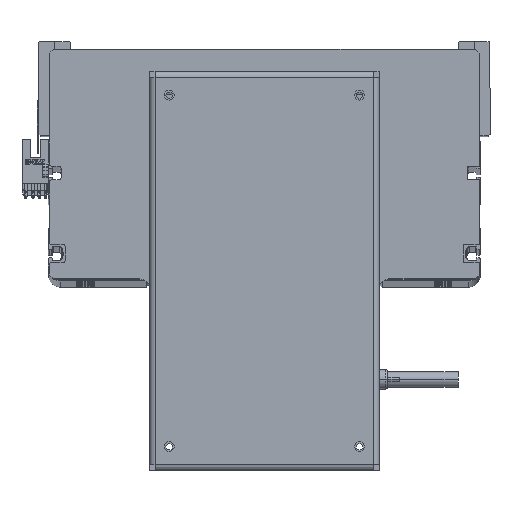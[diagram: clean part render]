
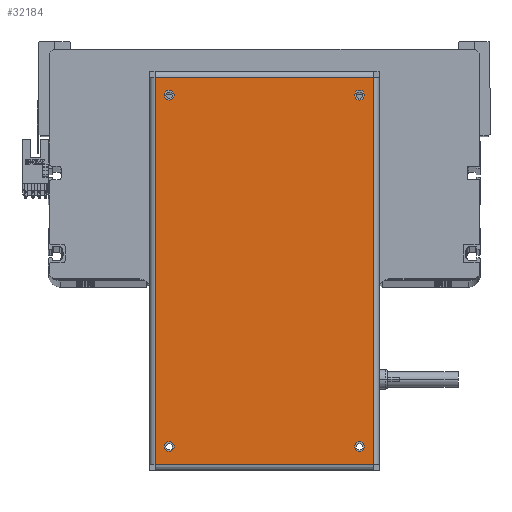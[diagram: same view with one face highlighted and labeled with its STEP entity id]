
A CAD part, top view. The second image highlights one B-rep face of the part: STEP entity #32184.
In plain terms, the highlighted planar face has unit normal (0, 0, 1).
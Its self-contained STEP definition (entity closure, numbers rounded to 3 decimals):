
#126 = DIRECTION ( 'NONE',  ( 1., 0., 0. ) ) ;
#400 = CARTESIAN_POINT ( 'NONE',  ( -98.75, -55.6, 0. ) ) ;
#519 = EDGE_CURVE ( 'NONE', #16144, #17165, #17118, .T. ) ;
#1760 = EDGE_CURVE ( 'NONE', #22771, #6299, #19597, .T. ) ;
#1814 = EDGE_CURVE ( 'NONE', #17165, #16144, #38968, .T. ) ;
#2192 = CARTESIAN_POINT ( 'NONE',  ( 87.05, 48.5, 0. ) ) ;
#2447 = DIRECTION ( 'NONE',  ( 0., 0., 1. ) ) ;
#3265 = EDGE_LOOP ( 'NONE', ( #3357, #6243, #14989, #32608 ) ) ;
#3357 = ORIENTED_EDGE ( 'NONE', *, *, #1760, .T. ) ;
#3504 = CARTESIAN_POINT ( 'NONE',  ( 92.05, -48.5, 0. ) ) ;
#3621 = VERTEX_POINT ( 'NONE', #2192 ) ;
#4157 = CARTESIAN_POINT ( 'NONE',  ( 98.65, 55.6, 0. ) ) ;
#4457 = CIRCLE ( 'NONE', #15868, 2.5 ) ;
#4502 = DIRECTION ( 'NONE',  ( 1., 0., 0. ) ) ;
#6243 = ORIENTED_EDGE ( 'NONE', *, *, #32293, .T. ) ;
#6299 = VERTEX_POINT ( 'NONE', #40777 ) ;
#6421 = AXIS2_PLACEMENT_3D ( 'NONE', #38872, #25543, #8874 ) ;
#6456 = DIRECTION ( 'NONE',  ( 1., 0., 0. ) ) ;
#6758 = VERTEX_POINT ( 'NONE', #4157 ) ;
#7639 = VERTEX_POINT ( 'NONE', #32074 ) ;
#7763 = FACE_BOUND ( 'NONE', #9269, .T. ) ;
#8004 = DIRECTION ( 'NONE',  ( 1., 0., 0. ) ) ;
#8146 = CIRCLE ( 'NONE', #32779, 2.5 ) ;
#8313 = VERTEX_POINT ( 'NONE', #29567 ) ;
#8874 = DIRECTION ( 'NONE',  ( 1., 0., 0. ) ) ;
#8965 = EDGE_CURVE ( 'NONE', #6758, #22771, #14698, .T. ) ;
#9269 = EDGE_LOOP ( 'NONE', ( #22457, #13350 ) ) ;
#9398 = EDGE_CURVE ( 'NONE', #7639, #8313, #34517, .T. ) ;
#9725 = CARTESIAN_POINT ( 'NONE',  ( 89.55, -48.5, 0. ) ) ;
#11068 = CARTESIAN_POINT ( 'NONE',  ( -89.55, 48.5, 0. ) ) ;
#11807 = CARTESIAN_POINT ( 'NONE',  ( 89.55, -48.5, 0. ) ) ;
#12017 = EDGE_LOOP ( 'NONE', ( #39351, #19007 ) ) ;
#12608 = CIRCLE ( 'NONE', #15473, 2.5 ) ;
#13000 = FACE_BOUND ( 'NONE', #24587, .T. ) ;
#13115 = VERTEX_POINT ( 'NONE', #27964 ) ;
#13320 = VECTOR ( 'NONE', #27159, 1000. ) ;
#13350 = ORIENTED_EDGE ( 'NONE', *, *, #519, .F. ) ;
#13846 = CARTESIAN_POINT ( 'NONE',  ( -98.65, 55.6, 0. ) ) ;
#13940 = AXIS2_PLACEMENT_3D ( 'NONE', #15655, #32561, #15510 ) ;
#14009 = VECTOR ( 'NONE', #126, 1000. ) ;
#14698 = LINE ( 'NONE', #41331, #17328 ) ;
#14989 = ORIENTED_EDGE ( 'NONE', *, *, #41409, .T. ) ;
#15473 = AXIS2_PLACEMENT_3D ( 'NONE', #15586, #42383, #35892 ) ;
#15510 = DIRECTION ( 'NONE',  ( 1., 0., 0. ) ) ;
#15586 = CARTESIAN_POINT ( 'NONE',  ( 89.55, 48.5, 0. ) ) ;
#15655 = CARTESIAN_POINT ( 'NONE',  ( -89.55, -48.5, 0. ) ) ;
#15657 = CARTESIAN_POINT ( 'NONE',  ( -89.55, -48.5, 0. ) ) ;
#15868 = AXIS2_PLACEMENT_3D ( 'NONE', #15657, #2447, #19036 ) ;
#15874 = CARTESIAN_POINT ( 'NONE',  ( -98.65, 55.6, 0. ) ) ;
#16124 = EDGE_LOOP ( 'NONE', ( #38929, #42979 ) ) ;
#16144 = VERTEX_POINT ( 'NONE', #20185 ) ;
#17118 = CIRCLE ( 'NONE', #23776, 2.5 ) ;
#17165 = VERTEX_POINT ( 'NONE', #27366 ) ;
#17294 = VERTEX_POINT ( 'NONE', #38327 ) ;
#17328 = VECTOR ( 'NONE', #42358, 1000. ) ;
#17832 = DIRECTION ( 'NONE',  ( 0., 0., 1. ) ) ;
#19007 = ORIENTED_EDGE ( 'NONE', *, *, #40756, .F. ) ;
#19036 = DIRECTION ( 'NONE',  ( 1., 0., 0. ) ) ;
#19597 = LINE ( 'NONE', #13846, #13320 ) ;
#19826 = DIRECTION ( 'NONE',  ( 0., 0., 1. ) ) ;
#20141 = VERTEX_POINT ( 'NONE', #24707 ) ;
#20185 = CARTESIAN_POINT ( 'NONE',  ( -92.05, 48.5, 0. ) ) ;
#20539 = DIRECTION ( 'NONE',  ( 0., 1., 0. ) ) ;
#20954 = EDGE_CURVE ( 'NONE', #17294, #26252, #29330, .T. ) ;
#21372 = DIRECTION ( 'NONE',  ( 0., 0., 1. ) ) ;
#22457 = ORIENTED_EDGE ( 'NONE', *, *, #1814, .F. ) ;
#22708 = AXIS2_PLACEMENT_3D ( 'NONE', #11068, #17832, #8004 ) ;
#22771 = VERTEX_POINT ( 'NONE', #15874 ) ;
#23166 = EDGE_CURVE ( 'NONE', #8313, #7639, #4457, .T. ) ;
#23776 = AXIS2_PLACEMENT_3D ( 'NONE', #39689, #36575, #6456 ) ;
#24517 = FACE_OUTER_BOUND ( 'NONE', #3265, .T. ) ;
#24587 = EDGE_LOOP ( 'NONE', ( #32122, #31129 ) ) ;
#24707 = CARTESIAN_POINT ( 'NONE',  ( 92.05, 48.5, 0. ) ) ;
#25543 = DIRECTION ( 'NONE',  ( 0., 0., 1. ) ) ;
#26068 = PLANE ( 'NONE',  #27025 ) ;
#26252 = VERTEX_POINT ( 'NONE', #3504 ) ;
#26488 = CARTESIAN_POINT ( 'NONE',  ( 98.75, 58.5, 0. ) ) ;
#27025 = AXIS2_PLACEMENT_3D ( 'NONE', #26488, #33191, #32748 ) ;
#27159 = DIRECTION ( 'NONE',  ( 0., -1., 0. ) ) ;
#27366 = CARTESIAN_POINT ( 'NONE',  ( -87.05, 48.5, 0. ) ) ;
#27964 = CARTESIAN_POINT ( 'NONE',  ( 98.65, -55.6, 0. ) ) ;
#29330 = CIRCLE ( 'NONE', #39610, 2.5 ) ;
#29567 = CARTESIAN_POINT ( 'NONE',  ( -87.05, -48.5, 0. ) ) ;
#31105 = CIRCLE ( 'NONE', #6421, 2.5 ) ;
#31129 = ORIENTED_EDGE ( 'NONE', *, *, #20954, .F. ) ;
#32074 = CARTESIAN_POINT ( 'NONE',  ( -92.05, -48.5, 0. ) ) ;
#32122 = ORIENTED_EDGE ( 'NONE', *, *, #33911, .F. ) ;
#32184 = ADVANCED_FACE ( 'NONE', ( #38116, #7763, #13000, #42354, #24517 ), #26068, .F. ) ;
#32293 = EDGE_CURVE ( 'NONE', #6299, #13115, #43366, .T. ) ;
#32561 = DIRECTION ( 'NONE',  ( 0., 0., 1. ) ) ;
#32595 = LINE ( 'NONE', #33793, #35775 ) ;
#32608 = ORIENTED_EDGE ( 'NONE', *, *, #8965, .T. ) ;
#32656 = DIRECTION ( 'NONE',  ( 1., 0., 0. ) ) ;
#32748 = DIRECTION ( 'NONE',  ( -1., 0., 0. ) ) ;
#32779 = AXIS2_PLACEMENT_3D ( 'NONE', #9725, #19826, #32656 ) ;
#33191 = DIRECTION ( 'NONE',  ( 0., 0., -1. ) ) ;
#33793 = CARTESIAN_POINT ( 'NONE',  ( 98.65, -55.6, 0. ) ) ;
#33911 = EDGE_CURVE ( 'NONE', #26252, #17294, #8146, .T. ) ;
#34517 = CIRCLE ( 'NONE', #13940, 2.5 ) ;
#35775 = VECTOR ( 'NONE', #20539, 1000. ) ;
#35892 = DIRECTION ( 'NONE',  ( 1., 0., 0. ) ) ;
#36575 = DIRECTION ( 'NONE',  ( 0., 0., 1. ) ) ;
#38116 = FACE_BOUND ( 'NONE', #16124, .T. ) ;
#38327 = CARTESIAN_POINT ( 'NONE',  ( 87.05, -48.5, 0. ) ) ;
#38872 = CARTESIAN_POINT ( 'NONE',  ( 89.55, 48.5, 0. ) ) ;
#38929 = ORIENTED_EDGE ( 'NONE', *, *, #23166, .F. ) ;
#38968 = CIRCLE ( 'NONE', #22708, 2.5 ) ;
#39351 = ORIENTED_EDGE ( 'NONE', *, *, #42642, .F. ) ;
#39610 = AXIS2_PLACEMENT_3D ( 'NONE', #11807, #21372, #4502 ) ;
#39689 = CARTESIAN_POINT ( 'NONE',  ( -89.55, 48.5, 0. ) ) ;
#40756 = EDGE_CURVE ( 'NONE', #3621, #20141, #31105, .T. ) ;
#40777 = CARTESIAN_POINT ( 'NONE',  ( -98.65, -55.6, 0. ) ) ;
#41331 = CARTESIAN_POINT ( 'NONE',  ( 98.75, 55.6, 0. ) ) ;
#41409 = EDGE_CURVE ( 'NONE', #13115, #6758, #32595, .T. ) ;
#42354 = FACE_BOUND ( 'NONE', #12017, .T. ) ;
#42358 = DIRECTION ( 'NONE',  ( -1., 0., 0. ) ) ;
#42383 = DIRECTION ( 'NONE',  ( 0., 0., 1. ) ) ;
#42642 = EDGE_CURVE ( 'NONE', #20141, #3621, #12608, .T. ) ;
#42979 = ORIENTED_EDGE ( 'NONE', *, *, #9398, .F. ) ;
#43366 = LINE ( 'NONE', #400, #14009 ) ;
